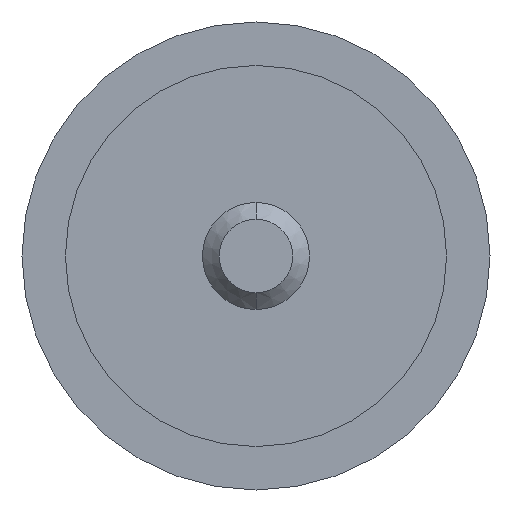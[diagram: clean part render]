
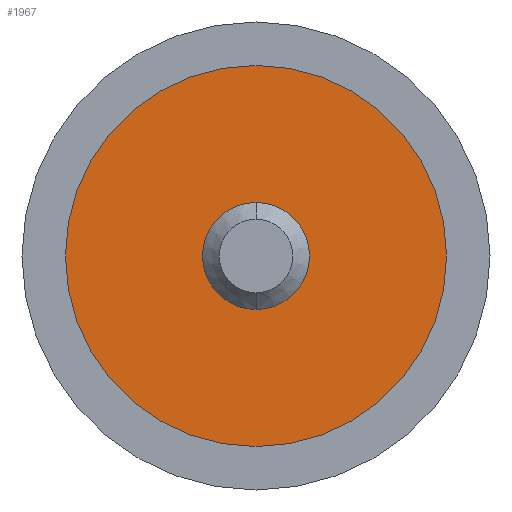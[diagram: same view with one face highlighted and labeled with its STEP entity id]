
A CAD part, front view. The second image highlights one B-rep face of the part: STEP entity #1967.
In plain terms, the highlighted planar face has unit normal (0, -1, 0).
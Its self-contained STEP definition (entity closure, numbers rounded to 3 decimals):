
#62 = DIRECTION ( 'NONE',  ( 0., 1., 0. ) ) ;
#214 = VERTEX_POINT ( 'NONE', #2072 ) ;
#389 = EDGE_LOOP ( 'NONE', ( #1284, #2584 ) ) ;
#439 = AXIS2_PLACEMENT_3D ( 'NONE', #2920, #1041, #3173 ) ;
#576 = EDGE_CURVE ( 'NONE', #214, #2850, #2182, .T. ) ;
#745 = DIRECTION ( 'NONE',  ( 0., -1., 0. ) ) ;
#1013 = CARTESIAN_POINT ( 'NONE',  ( 0., -1.5, -4. ) ) ;
#1041 = DIRECTION ( 'NONE',  ( 0., 1., 0. ) ) ;
#1050 = DIRECTION ( 'NONE',  ( 0., 0., -1. ) ) ;
#1284 = ORIENTED_EDGE ( 'NONE', *, *, #576, .F. ) ;
#1576 = DIRECTION ( 'NONE',  ( 0., 0., 1. ) ) ;
#1600 = CIRCLE ( 'NONE', #3155, 4. ) ;
#1633 = CIRCLE ( 'NONE', #439, 14.25 ) ;
#1640 = DIRECTION ( 'NONE',  ( 0., 0., -1. ) ) ;
#1805 = FACE_OUTER_BOUND ( 'NONE', #2572, .T. ) ;
#1928 = CIRCLE ( 'NONE', #2654, 14.25 ) ;
#1967 = ADVANCED_FACE ( 'NONE', ( #2045, #1805 ), #3320, .F. ) ;
#2045 = FACE_BOUND ( 'NONE', #389, .T. ) ;
#2063 = DIRECTION ( 'NONE',  ( 0., 1., 0. ) ) ;
#2072 = CARTESIAN_POINT ( 'NONE',  ( 0., -1.5, 4. ) ) ;
#2182 = CIRCLE ( 'NONE', #3510, 4. ) ;
#2429 = ORIENTED_EDGE ( 'NONE', *, *, #2996, .F. ) ;
#2432 = ORIENTED_EDGE ( 'NONE', *, *, #3400, .F. ) ;
#2487 = VERTEX_POINT ( 'NONE', #2744 ) ;
#2572 = EDGE_LOOP ( 'NONE', ( #2432, #2429 ) ) ;
#2584 = ORIENTED_EDGE ( 'NONE', *, *, #3575, .F. ) ;
#2654 = AXIS2_PLACEMENT_3D ( 'NONE', #3405, #62, #1576 ) ;
#2744 = CARTESIAN_POINT ( 'NONE',  ( 0., -1.5, 14.25 ) ) ;
#2807 = CARTESIAN_POINT ( 'NONE',  ( 0., -1.5, 0. ) ) ;
#2850 = VERTEX_POINT ( 'NONE', #1013 ) ;
#2920 = CARTESIAN_POINT ( 'NONE',  ( 0., -1.5, 0. ) ) ;
#2996 = EDGE_CURVE ( 'NONE', #3061, #2487, #1633, .T. ) ;
#3061 = VERTEX_POINT ( 'NONE', #3278 ) ;
#3137 = CARTESIAN_POINT ( 'NONE',  ( 0., -1.5, 0. ) ) ;
#3155 = AXIS2_PLACEMENT_3D ( 'NONE', #2807, #745, #1050 ) ;
#3173 = DIRECTION ( 'NONE',  ( 0., 0., 1. ) ) ;
#3278 = CARTESIAN_POINT ( 'NONE',  ( 0., -1.5, -14.25 ) ) ;
#3300 = DIRECTION ( 'NONE',  ( 0., 0., 1. ) ) ;
#3320 = PLANE ( 'NONE',  #3874 ) ;
#3400 = EDGE_CURVE ( 'NONE', #2487, #3061, #1928, .T. ) ;
#3405 = CARTESIAN_POINT ( 'NONE',  ( 0., -1.5, 0. ) ) ;
#3510 = AXIS2_PLACEMENT_3D ( 'NONE', #3137, #3751, #1640 ) ;
#3575 = EDGE_CURVE ( 'NONE', #2850, #214, #1600, .T. ) ;
#3608 = CARTESIAN_POINT ( 'NONE',  ( 0., -1.5, 0. ) ) ;
#3751 = DIRECTION ( 'NONE',  ( 0., -1., 0. ) ) ;
#3874 = AXIS2_PLACEMENT_3D ( 'NONE', #3608, #2063, #3300 ) ;
